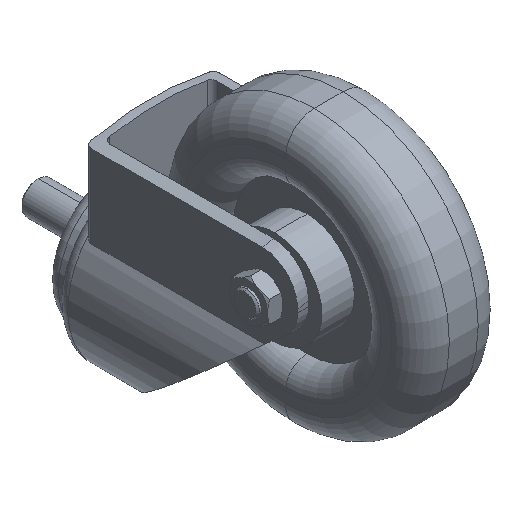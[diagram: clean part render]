
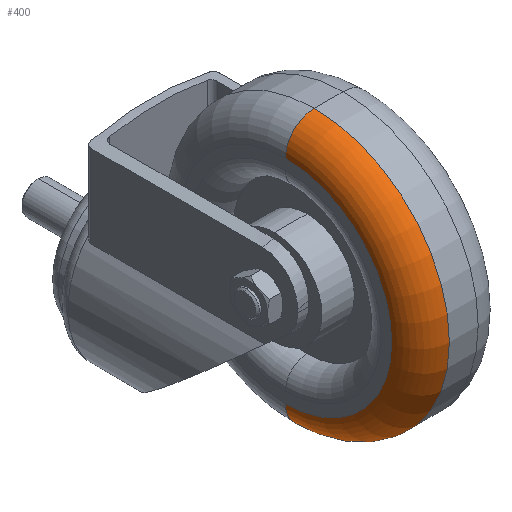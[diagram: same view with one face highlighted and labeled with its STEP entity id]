
A CAD part, isometric view. The second image highlights one B-rep face of the part: STEP entity #400.
In plain terms, the highlighted toroidal (fillet/blend) face has major radius 39.333 mm and minor radius 10.667 mm.
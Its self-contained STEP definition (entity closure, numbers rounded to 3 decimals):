
#19 = DIRECTION ( 'NONE',  ( 0., 1., 0. ) ) ;
#47 = CARTESIAN_POINT ( 'NONE',  ( -5.333, 0., -39.333 ) ) ;
#67 = DIRECTION ( 'NONE',  ( 0., 0., -1. ) ) ;
#174 = VERTEX_POINT ( 'NONE', #526 ) ;
#400 = ADVANCED_FACE ( 'NONE', ( #433 ), #1109, .T. ) ;
#433 = FACE_OUTER_BOUND ( 'NONE', #900, .T. ) ;
#526 = CARTESIAN_POINT ( 'NONE',  ( -16., 0., -39.333 ) ) ;
#575 = DIRECTION ( 'NONE',  ( 0., 0., -1. ) ) ;
#763 = EDGE_CURVE ( 'NONE', #5227, #174, #3785, .T. ) ;
#900 = EDGE_LOOP ( 'NONE', ( #4169, #2783, #2118, #3784 ) ) ;
#976 = CARTESIAN_POINT ( 'NONE',  ( -5.333, 0., 0. ) ) ;
#1074 = EDGE_CURVE ( 'NONE', #3021, #2128, #5331, .T. ) ;
#1109 = TOROIDAL_SURFACE ( 'NONE', #3316, 39.333, 10.667 ) ;
#1530 = DIRECTION ( 'NONE',  ( 0., 0., -1. ) ) ;
#1638 = CARTESIAN_POINT ( 'NONE',  ( -5.333, 0., -50. ) ) ;
#1998 = CARTESIAN_POINT ( 'NONE',  ( -5.333, 0., 50. ) ) ;
#2053 = EDGE_CURVE ( 'NONE', #5227, #3021, #5965, .T. ) ;
#2118 = ORIENTED_EDGE ( 'NONE', *, *, #2376, .T. ) ;
#2128 = VERTEX_POINT ( 'NONE', #1638 ) ;
#2363 = AXIS2_PLACEMENT_3D ( 'NONE', #47, #2934, #67 ) ;
#2376 = EDGE_CURVE ( 'NONE', #174, #2128, #3964, .T. ) ;
#2394 = DIRECTION ( 'NONE',  ( 1., 0., 0. ) ) ;
#2399 = DIRECTION ( 'NONE',  ( 0., 0., -1. ) ) ;
#2783 = ORIENTED_EDGE ( 'NONE', *, *, #763, .T. ) ;
#2859 = DIRECTION ( 'NONE',  ( 1., 0., 0. ) ) ;
#2862 = DIRECTION ( 'NONE',  ( 0., 0., 1. ) ) ;
#2934 = DIRECTION ( 'NONE',  ( 0., -1., 0. ) ) ;
#3021 = VERTEX_POINT ( 'NONE', #1998 ) ;
#3272 = AXIS2_PLACEMENT_3D ( 'NONE', #5684, #2394, #575 ) ;
#3316 = AXIS2_PLACEMENT_3D ( 'NONE', #6083, #2859, #2399 ) ;
#3784 = ORIENTED_EDGE ( 'NONE', *, *, #1074, .F. ) ;
#3785 = CIRCLE ( 'NONE', #3272, 39.333 ) ;
#3964 = CIRCLE ( 'NONE', #2363, 10.667 ) ;
#4169 = ORIENTED_EDGE ( 'NONE', *, *, #2053, .F. ) ;
#4337 = DIRECTION ( 'NONE',  ( 1., 0., 0. ) ) ;
#4351 = CARTESIAN_POINT ( 'NONE',  ( -5.333, 0., 39.333 ) ) ;
#4610 = AXIS2_PLACEMENT_3D ( 'NONE', #976, #4337, #1530 ) ;
#5227 = VERTEX_POINT ( 'NONE', #5327 ) ;
#5327 = CARTESIAN_POINT ( 'NONE',  ( -16., 0., 39.333 ) ) ;
#5331 = CIRCLE ( 'NONE', #4610, 50. ) ;
#5684 = CARTESIAN_POINT ( 'NONE',  ( -16., 0., 0. ) ) ;
#5811 = AXIS2_PLACEMENT_3D ( 'NONE', #4351, #19, #2862 ) ;
#5965 = CIRCLE ( 'NONE', #5811, 10.667 ) ;
#6083 = CARTESIAN_POINT ( 'NONE',  ( -5.333, 0., 0. ) ) ;
